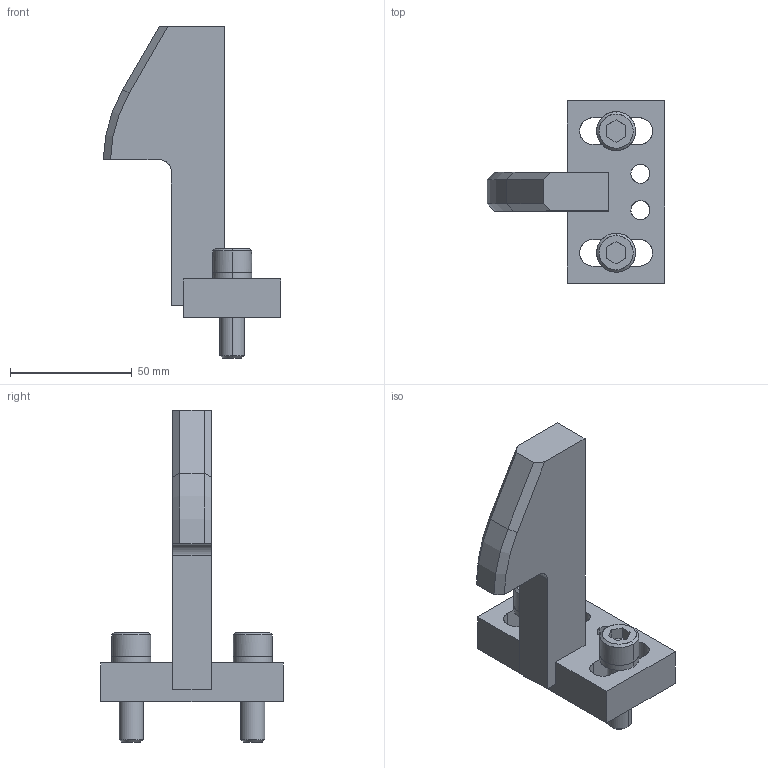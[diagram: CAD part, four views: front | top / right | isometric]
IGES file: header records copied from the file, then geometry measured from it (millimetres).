
Global section: file name: E:\UnigraphicsGraphicData\MISUMI_PRESS-PARTS\IGES\3d_ngwsa-120-40-s50-x28-y65-m10_01615_r00.igs; native system: NX V5.0; preprocessor: UGS NX IGES V5.0; author: MISUMI; date: 20110105.162123; units: millimetre
Bounding box: 72.99 x 75 x 136.5 mm (x, y, z)
Surface area: 29144 mm2 (no closed solid volume)
Topology: 0 solids, 0 shells, 104 faces, 670 edges, 670 vertices
Faces by surface type: bspline 104
